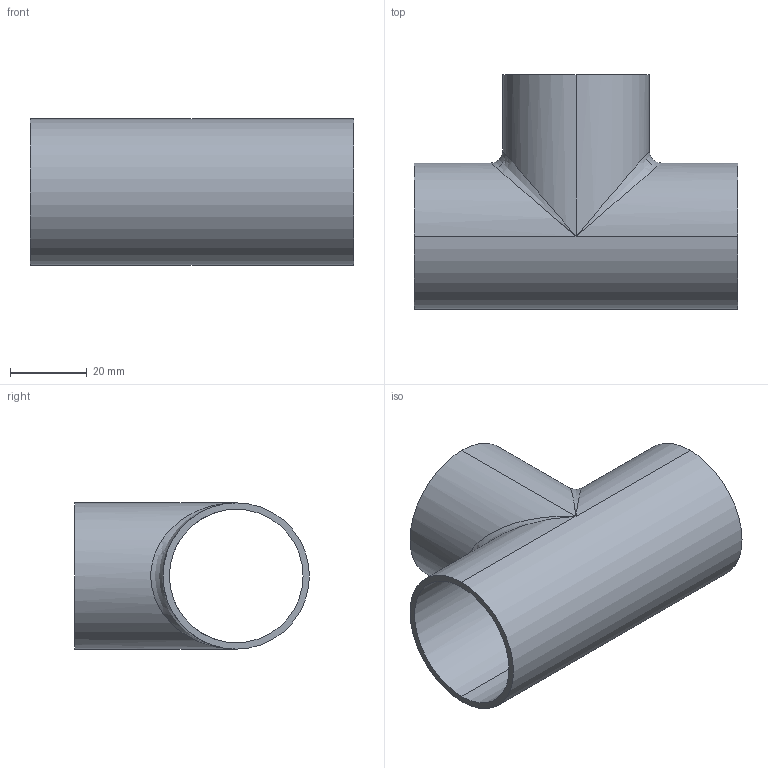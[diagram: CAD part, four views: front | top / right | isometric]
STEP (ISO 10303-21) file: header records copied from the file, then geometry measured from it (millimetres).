
FILE_DESCRIPTION (( 'STEP AP203' ), '1' );
FILE_NAME ('E7WWW1.5.STEP', '2018-05-02T18:01:22', ( 'vneprd' ), ( 'Microsoft' ), 'SwSTEP 2.0', 'SolidWorks 2014', '' );
FILE_SCHEMA (( 'CONFIG_CONTROL_DESIGN' ));
Length unit declared in the file: inch
Products named in the file (1): E7WWW1.5
Bounding box: 84.12 x 61.11 x 38.1 mm (x, y, z)
Volume: 19569.6 mm3; surface area: 24082 mm2
Topology: 1 solids, 1 shells, 15 faces, 34 edges, 16 vertices
Faces by surface type: cylinder 10, plane 3, bspline 2
Entity records: 661 total; most frequent: CARTESIAN_POINT 282, DIRECTION 64, ORIENTED_EDGE 60, EDGE_CURVE 30, AXIS2_PLACEMENT_3D 26, EDGE_LOOP 18, VERTEX_POINT 16, ADVANCED_FACE 15
